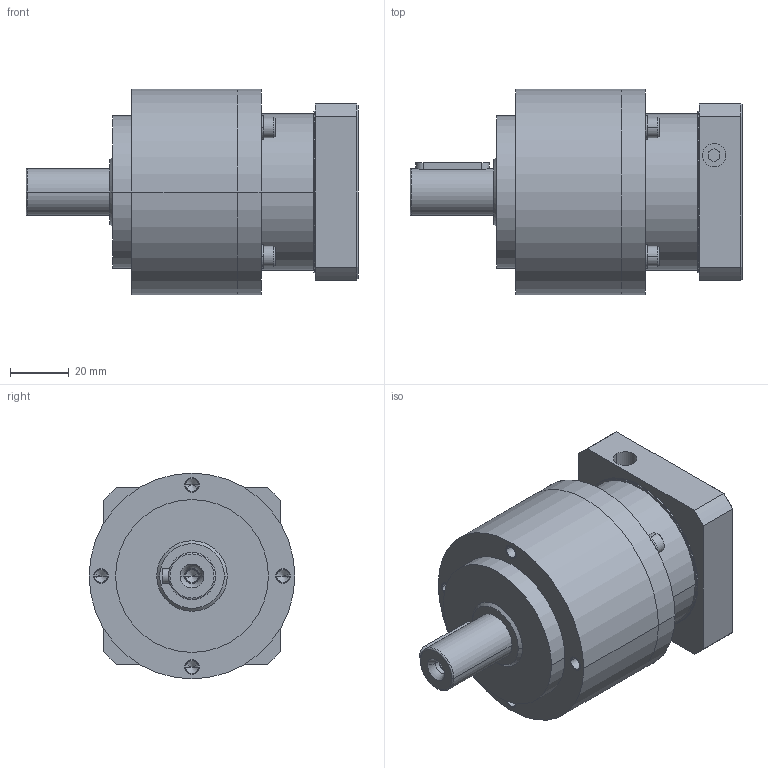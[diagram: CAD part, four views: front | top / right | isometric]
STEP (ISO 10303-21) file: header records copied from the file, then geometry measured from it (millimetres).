
FILE_DESCRIPTION((''),'2;1');
FILE_NAME('AE0701-P4120401_ASM','2005-10-31T',('D4016'),(''),'PRO/ENGINEER BY PARAMETRIC TECHNOLOGY CORPORATION, 2001280','PRO/ENGINEER BY PARAMETRIC TECHNOLOGY CORPORATION, 2001280','');
FILE_SCHEMA(('CONFIG_CONTROL_DESIGN'));
Length unit declared in the file: millimetre
Products named in the file (7): AE070-1; PK720001; 233100002; 220100504; COVER-SET-2_ASM; P4120401; AE0701-P4120401_ASM
Assembly tree (12 placements, depth 3):
  AE0701-P4120401_ASM
    AE070-1
    COVER-SET-2_ASM
      PK720001
      233100002  x4
      220100504  x4
    P4120401
Bounding box: 113 x 70 x 70 mm (x, y, z)
Volume: 259201.8 mm3; surface area: 52756.4 mm2
Topology: 11 solids, 20 shells, 329 faces, 732 edges, 445 vertices
Faces by surface type: cylinder 141, plane 122, cone 50, torus 16
Entity records: 6416 total; most frequent: DIRECTION 1200, CARTESIAN_POINT 1159, ORIENTED_EDGE 924, AXIS2_PLACEMENT_3D 492, EDGE_CURVE 480, VERTEX_POINT 307, EDGE_LOOP 263, CIRCLE 245
